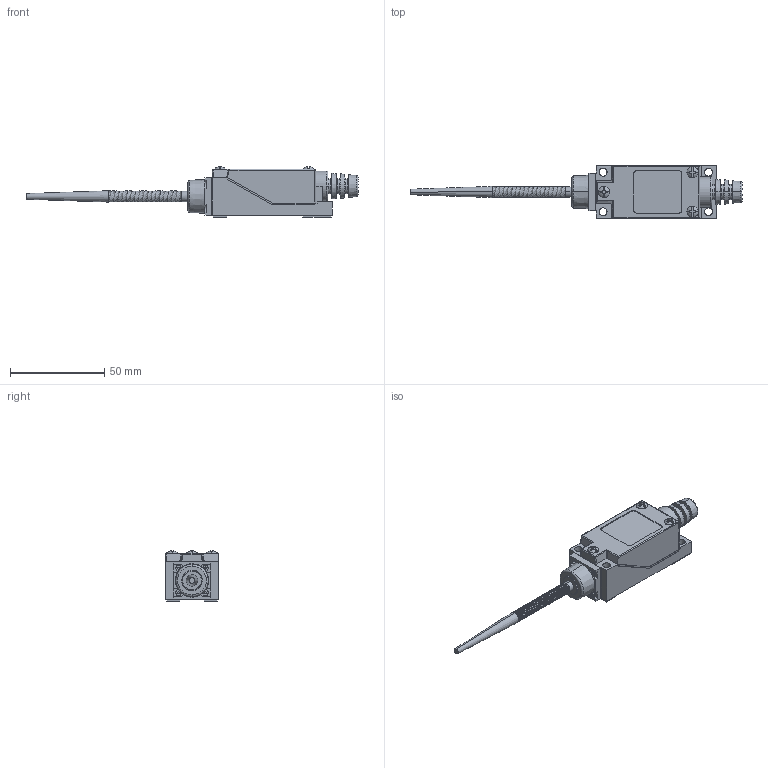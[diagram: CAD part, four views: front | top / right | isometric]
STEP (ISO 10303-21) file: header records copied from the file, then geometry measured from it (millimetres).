
FILE_DESCRIPTION(('STEP AP203'), '1');
FILE_NAME('Korpus.stp', '2014-07-04T09:46:28', ('UNSPECIFIED'), ('UNSPECIFIED'), 'ASCON STEP Converter 1.0', 'Kompas 3D', '');
FILE_SCHEMA(('CONFIG_CONTROL_DESIGN'));
Length unit declared in the file: millimetre
Bounding box: 176.25 x 28 x 26.71 mm (x, y, z)
Surface area: 14000.6 mm2 (no closed solid volume)
Topology: 0 solids, 1 shells, 340 faces, 877 edges, 557 vertices
Faces by surface type: plane 227, cylinder 54, torus 22, cone 22, sphere 11, bspline 4
Full cylindrical faces by diameter (mm): 16 x1
Entity records: 47479 total; most frequent: CARTESIAN_POINT 39413, ORIENTED_EDGE 1737, DIRECTION 1570, EDGE_CURVE 870, LINE 580, VECTOR 580, VERTEX_POINT 557, AXIS2_PLACEMENT_3D 495
